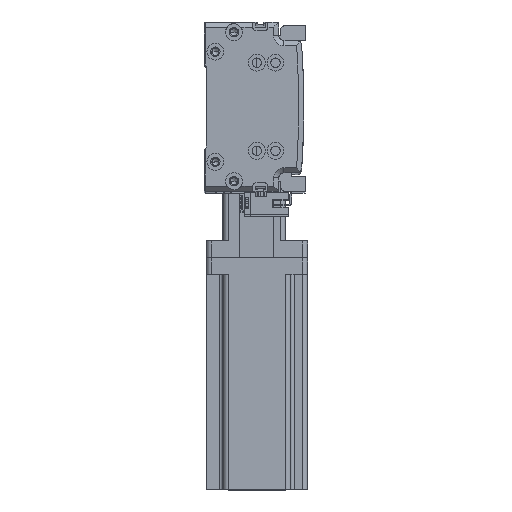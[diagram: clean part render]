
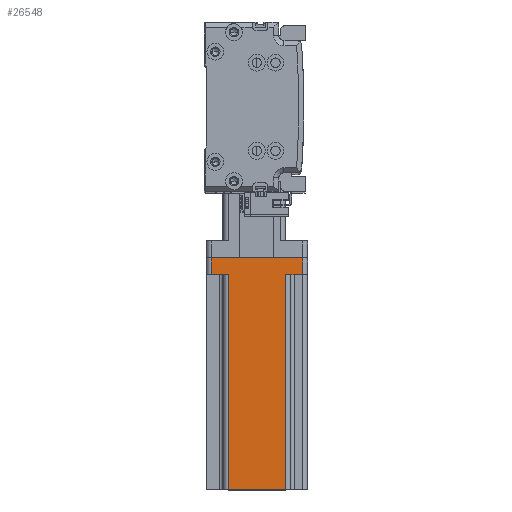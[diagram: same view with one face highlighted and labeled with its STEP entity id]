
A CAD part, top view. The second image highlights one B-rep face of the part: STEP entity #26548.
In plain terms, the highlighted planar face has unit normal (0, 0, 1) as drawn and (0, 1, 0) by its records, which use the part's own axes.
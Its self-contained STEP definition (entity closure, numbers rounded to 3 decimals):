
#399 = VERTEX_POINT ( 'NONE', #36561 ) ;
#1223 = LINE ( 'NONE', #35605, #38928 ) ;
#1306 = CARTESIAN_POINT ( 'NONE',  ( -17., 30., 137. ) ) ;
#1738 = LINE ( 'NONE', #40717, #21205 ) ;
#3850 = ORIENTED_EDGE ( 'NONE', *, *, #43637, .T. ) ;
#7733 = CARTESIAN_POINT ( 'NONE',  ( 17., 30., 137. ) ) ;
#8029 = VERTEX_POINT ( 'NONE', #29216 ) ;
#8472 = DIRECTION ( 'NONE',  ( 0., 0., 1. ) ) ;
#8945 = CARTESIAN_POINT ( 'NONE',  ( -27., 30., 10. ) ) ;
#9388 = EDGE_LOOP ( 'NONE', ( #43459, #43679, #19071, #45173, #21302, #31285, #3850, #14689 ) ) ;
#10398 = VERTEX_POINT ( 'NONE', #16407 ) ;
#11342 = LINE ( 'NONE', #34565, #21093 ) ;
#11444 = VERTEX_POINT ( 'NONE', #14611 ) ;
#12578 = DIRECTION ( 'NONE',  ( 0., -1., 0. ) ) ;
#14611 = CARTESIAN_POINT ( 'NONE',  ( 27., 30., 10. ) ) ;
#14689 = ORIENTED_EDGE ( 'NONE', *, *, #42854, .T. ) ;
#15598 = EDGE_CURVE ( 'NONE', #38545, #37236, #27921, .T. ) ;
#16078 = LINE ( 'NONE', #36304, #35496 ) ;
#16407 = CARTESIAN_POINT ( 'NONE',  ( 17., 30., 10. ) ) ;
#16538 = CARTESIAN_POINT ( 'NONE',  ( 27., 30., 0. ) ) ;
#18111 = EDGE_CURVE ( 'NONE', #37236, #8029, #37659, .T. ) ;
#18844 = DIRECTION ( 'NONE',  ( 0., 0., -1. ) ) ;
#19071 = ORIENTED_EDGE ( 'NONE', *, *, #37678, .F. ) ;
#19276 = AXIS2_PLACEMENT_3D ( 'NONE', #34439, #12578, #38118 ) ;
#20244 = FACE_OUTER_BOUND ( 'NONE', #9388, .T. ) ;
#21093 = VECTOR ( 'NONE', #27075, 1000. ) ;
#21205 = VECTOR ( 'NONE', #18844, 1000. ) ;
#21302 = ORIENTED_EDGE ( 'NONE', *, *, #32889, .F. ) ;
#22027 = DIRECTION ( 'NONE',  ( -1., 0., 0. ) ) ;
#22276 = CARTESIAN_POINT ( 'NONE',  ( 17., 30., 137. ) ) ;
#23109 = EDGE_CURVE ( 'NONE', #45202, #10398, #37007, .T. ) ;
#24906 = CARTESIAN_POINT ( 'NONE',  ( -20., 30., 10. ) ) ;
#26157 = VECTOR ( 'NONE', #29552, 1000. ) ;
#26548 = ADVANCED_FACE ( 'NONE', ( #20244 ), #34270, .F. ) ;
#27075 = DIRECTION ( 'NONE',  ( -1., 0., 0. ) ) ;
#27921 = LINE ( 'NONE', #24906, #37607 ) ;
#28337 = DIRECTION ( 'NONE',  ( -1., 0., 0. ) ) ;
#28766 = VERTEX_POINT ( 'NONE', #16538 ) ;
#29216 = CARTESIAN_POINT ( 'NONE',  ( -17., 30., 137. ) ) ;
#29300 = CARTESIAN_POINT ( 'NONE',  ( 30., 30., 137. ) ) ;
#29552 = DIRECTION ( 'NONE',  ( 0., 0., -1. ) ) ;
#29932 = LINE ( 'NONE', #29300, #39649 ) ;
#31285 = ORIENTED_EDGE ( 'NONE', *, *, #35428, .T. ) ;
#32889 = EDGE_CURVE ( 'NONE', #11444, #10398, #16078, .T. ) ;
#34270 = PLANE ( 'NONE',  #19276 ) ;
#34439 = CARTESIAN_POINT ( 'NONE',  ( 30., 30., 137. ) ) ;
#34565 = CARTESIAN_POINT ( 'NONE',  ( 30., 30., 0. ) ) ;
#35428 = EDGE_CURVE ( 'NONE', #11444, #28766, #1738, .T. ) ;
#35496 = VECTOR ( 'NONE', #28337, 1000. ) ;
#35605 = CARTESIAN_POINT ( 'NONE',  ( -27., 30., 137. ) ) ;
#36304 = CARTESIAN_POINT ( 'NONE',  ( 20., 30., 10. ) ) ;
#36400 = DIRECTION ( 'NONE',  ( 0., 0., 1. ) ) ;
#36513 = VECTOR ( 'NONE', #8472, 1000. ) ;
#36561 = CARTESIAN_POINT ( 'NONE',  ( -27., 30., 0. ) ) ;
#37007 = LINE ( 'NONE', #22276, #26157 ) ;
#37236 = VERTEX_POINT ( 'NONE', #40872 ) ;
#37607 = VECTOR ( 'NONE', #46759, 1000. ) ;
#37659 = LINE ( 'NONE', #1306, #36513 ) ;
#37678 = EDGE_CURVE ( 'NONE', #45202, #8029, #29932, .T. ) ;
#38118 = DIRECTION ( 'NONE',  ( 1., 0., 0. ) ) ;
#38545 = VERTEX_POINT ( 'NONE', #8945 ) ;
#38928 = VECTOR ( 'NONE', #36400, 1000. ) ;
#39649 = VECTOR ( 'NONE', #22027, 1000. ) ;
#40717 = CARTESIAN_POINT ( 'NONE',  ( 27., 30., 137. ) ) ;
#40872 = CARTESIAN_POINT ( 'NONE',  ( -17., 30., 10. ) ) ;
#42854 = EDGE_CURVE ( 'NONE', #399, #38545, #1223, .T. ) ;
#43459 = ORIENTED_EDGE ( 'NONE', *, *, #15598, .T. ) ;
#43637 = EDGE_CURVE ( 'NONE', #28766, #399, #11342, .T. ) ;
#43679 = ORIENTED_EDGE ( 'NONE', *, *, #18111, .T. ) ;
#45173 = ORIENTED_EDGE ( 'NONE', *, *, #23109, .T. ) ;
#45202 = VERTEX_POINT ( 'NONE', #7733 ) ;
#46759 = DIRECTION ( 'NONE',  ( 1., 0., 0. ) ) ;
